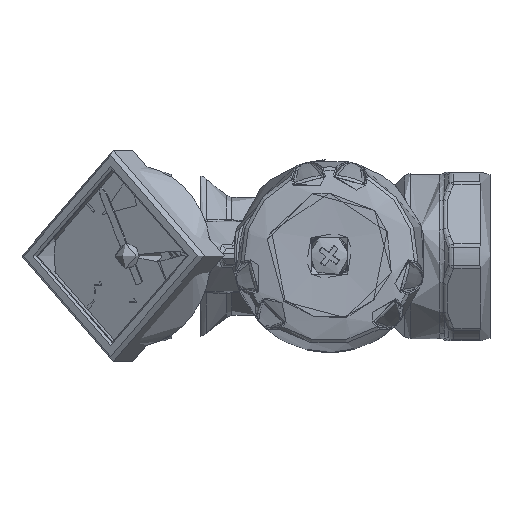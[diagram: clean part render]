
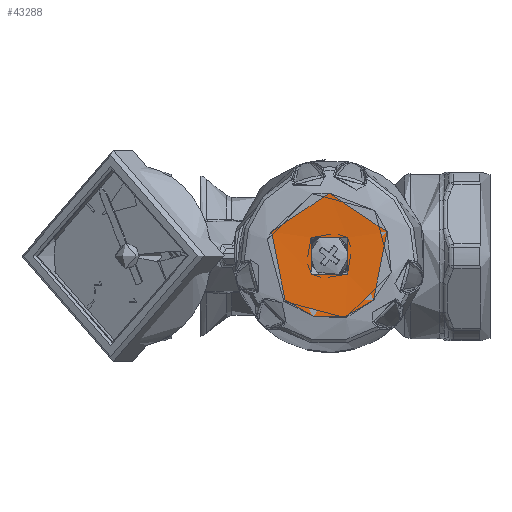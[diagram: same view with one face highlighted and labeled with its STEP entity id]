
A CAD part, top view. The second image highlights one B-rep face of the part: STEP entity #43288.
In plain terms, the highlighted spherical face has radius 258.759 mm.
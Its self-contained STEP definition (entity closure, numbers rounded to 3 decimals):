
#163=SPHERICAL_SURFACE('',#46440,258.759);
#5680=CIRCLE('',#46436,4.891);
#5682=CIRCLE('',#46439,11.883);
#14576=ORIENTED_EDGE('',*,*,#21085,.T.);
#14577=ORIENTED_EDGE('',*,*,#21083,.T.);
#21083=EDGE_CURVE('',#24742,#24742,#5680,.T.);
#21085=EDGE_CURVE('',#24744,#24744,#5682,.T.);
#24742=VERTEX_POINT('',#85877);
#24744=VERTEX_POINT('',#85882);
#29456=EDGE_LOOP('',(#14576));
#29457=EDGE_LOOP('',(#14577));
#31777=FACE_BOUND('',#29456,.T.);
#31778=FACE_BOUND('',#29457,.T.);
#43288=ADVANCED_FACE('',(#31777,#31778),#163,.F.);
#46436=AXIS2_PLACEMENT_3D('',#85876,#53504,#53505);
#46439=AXIS2_PLACEMENT_3D('',#85881,#53510,#53511);
#46440=AXIS2_PLACEMENT_3D('',#85883,#53512,#53513);
#53504=DIRECTION('',(0.,0.,-1.));
#53505=DIRECTION('',(1.,0.,0.));
#53510=DIRECTION('',(0.,0.,1.));
#53511=DIRECTION('',(0.,-1.,0.));
#53512=DIRECTION('',(0.,0.,1.));
#53513=DIRECTION('',(0.,1.,0.));
#85876=CARTESIAN_POINT('',(0.,0.,29.779));
#85877=CARTESIAN_POINT('',(4.891,0.,29.779));
#85881=CARTESIAN_POINT('',(0.,0.,30.006));
#85882=CARTESIAN_POINT('',(0.,-11.883,30.006));
#85883=CARTESIAN_POINT('',(0.,0.,288.492));
